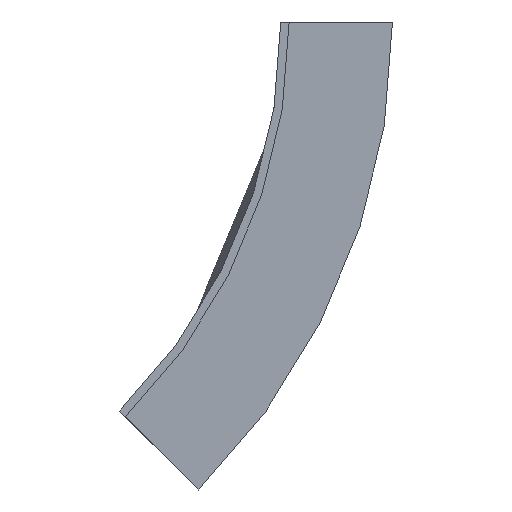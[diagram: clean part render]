
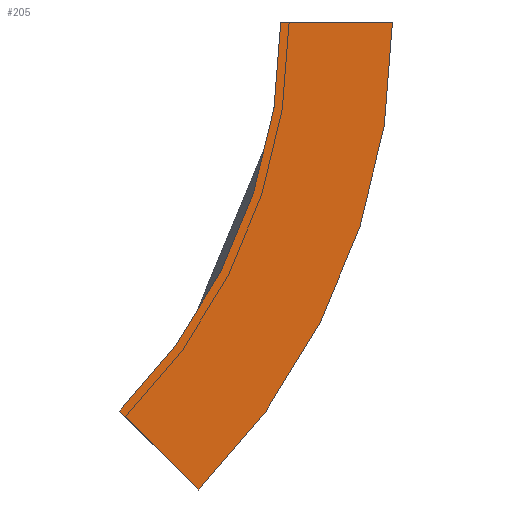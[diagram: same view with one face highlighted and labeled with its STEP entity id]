
A CAD part, left-side view. The second image highlights one B-rep face of the part: STEP entity #205.
In plain terms, the highlighted planar face has unit normal (-1, 0, 0).
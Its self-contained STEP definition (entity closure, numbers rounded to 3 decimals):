
#9 = CIRCLE ( 'NONE', #87, 118.5 ) ;
#13 = CARTESIAN_POINT ( 'NONE',  ( -203.5, 98.5, 0. ) ) ;
#27 = DIRECTION ( 'NONE',  ( 1., 0., 0. ) ) ;
#45 = CARTESIAN_POINT ( 'NONE',  ( -203.5, 98.5, 0. ) ) ;
#79 = CARTESIAN_POINT ( 'NONE',  ( -203.5, 98.5, 0. ) ) ;
#80 = AXIS2_PLACEMENT_3D ( 'NONE', #13, #193, #324 ) ;
#87 = AXIS2_PLACEMENT_3D ( 'NONE', #79, #27, #264 ) ;
#90 = EDGE_CURVE ( 'NONE', #322, #183, #409, .T. ) ;
#115 = EDGE_CURVE ( 'NONE', #359, #539, #271, .T. ) ;
#119 = ORIENTED_EDGE ( 'NONE', *, *, #173, .F. ) ;
#144 = DIRECTION ( 'NONE',  ( 0., 0., 1. ) ) ;
#151 = FACE_OUTER_BOUND ( 'NONE', #479, .T. ) ;
#173 = EDGE_CURVE ( 'NONE', #539, #322, #549, .T. ) ;
#175 = CARTESIAN_POINT ( 'NONE',  ( -203.5, 0., 0. ) ) ;
#183 = VERTEX_POINT ( 'NONE', #521 ) ;
#193 = DIRECTION ( 'NONE',  ( -1., 0., 0. ) ) ;
#205 = ADVANCED_FACE ( 'NONE', ( #151 ), #275, .T. ) ;
#247 = CARTESIAN_POINT ( 'NONE',  ( -203.5, 0., 0. ) ) ;
#264 = DIRECTION ( 'NONE',  ( 0., 0., -1. ) ) ;
#266 = EDGE_CURVE ( 'NONE', #183, #359, #9, .T. ) ;
#271 = LINE ( 'NONE', #558, #313 ) ;
#275 = PLANE ( 'NONE',  #80 ) ;
#313 = VECTOR ( 'NONE', #357, 1000. ) ;
#322 = VERTEX_POINT ( 'NONE', #247 ) ;
#324 = DIRECTION ( 'NONE',  ( 0., 0., 1. ) ) ;
#337 = DIRECTION ( 'NONE',  ( -1., 0., 0. ) ) ;
#353 = AXIS2_PLACEMENT_3D ( 'NONE', #45, #337, #144 ) ;
#357 = DIRECTION ( 'NONE',  ( 0., 0.707, 0.707 ) ) ;
#359 = VERTEX_POINT ( 'NONE', #526 ) ;
#363 = DIRECTION ( 'NONE',  ( 0., -1., 0. ) ) ;
#409 = LINE ( 'NONE', #175, #431 ) ;
#426 = CARTESIAN_POINT ( 'NONE',  ( -203.5, 28.85, -69.65 ) ) ;
#431 = VECTOR ( 'NONE', #363, 1000. ) ;
#439 = ORIENTED_EDGE ( 'NONE', *, *, #266, .F. ) ;
#479 = EDGE_LOOP ( 'NONE', ( #564, #439, #497, #119 ) ) ;
#497 = ORIENTED_EDGE ( 'NONE', *, *, #90, .F. ) ;
#521 = CARTESIAN_POINT ( 'NONE',  ( -203.5, -20., 0. ) ) ;
#526 = CARTESIAN_POINT ( 'NONE',  ( -203.5, 14.708, -83.792 ) ) ;
#539 = VERTEX_POINT ( 'NONE', #426 ) ;
#549 = CIRCLE ( 'NONE', #353, 98.5 ) ;
#558 = CARTESIAN_POINT ( 'NONE',  ( -203.5, 14.708, -83.792 ) ) ;
#564 = ORIENTED_EDGE ( 'NONE', *, *, #115, .F. ) ;
